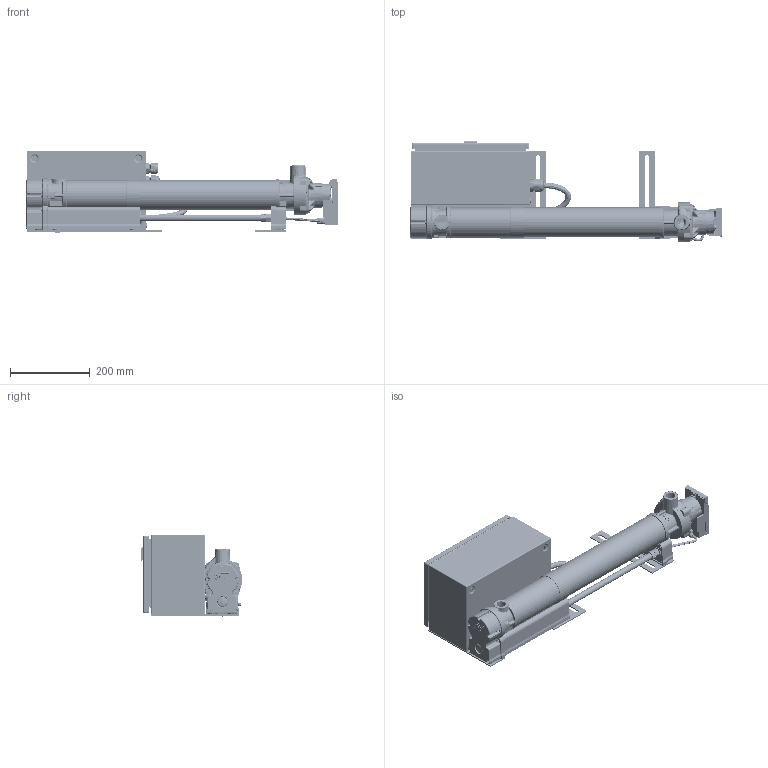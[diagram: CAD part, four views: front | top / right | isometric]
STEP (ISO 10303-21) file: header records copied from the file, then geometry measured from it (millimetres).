
FILE_DESCRIPTION (( 'STEP AP214' ), '1' );
FILE_NAME ('ASS_TOPSTART_9KW_WILOYP.STEP', '2014-01-10T07:52:39', ( '' ), ( '' ), 'SwSTEP 2.0', 'SolidWorks 2013', '' );
FILE_SCHEMA (( 'AUTOMOTIVE_DESIGN' ));
Length unit declared in the file: millimetre
Products named in the file (40): Pièce3^ASS_TOPSTART_9KW_WILOYP; 462615; Pièce_Iso_3; 6; 1597020-C; BOUCHON; 1597025-R; Pièce_Iso_1; Assemblage2; 5; Vis-Al-4; 1597020-B; PLAQUE SUPPORT_2; TUBE; 1597025-C; Bague_Sup; 4; GRCAPCAR; 1597020-A; PRESSE_16; 1597025-B; ip2632-refoidisseur-2012-09-10; 3; Vis-Al-6; PRESSE_20; Assemblage_vis; 1597025-A; CORPS DE CHAUFFE TOPSTART_6KW _LG; 2; 3d-stp_WILO-Intec_Motor-MS13-F14-Yonos-Para-RK-WS8; PLAQUE SUPPORT; BOUCHON_2; CAISSE; 462614; 1; PETCAP; Vis-Al-6-b; 7; 1597020-R; ASS_TOPSTART_9KW_WILOYP
Assembly tree (57 placements, depth 4):
  ASS_TOPSTART_9KW_WILOYP
    CORPS DE CHAUFFE TOPSTART_6KW _LG
    ip2632-refoidisseur-2012-09-10
    Bague_Sup
    Pièce_Iso_1
    Pièce_Iso_3
    PETCAP
    3d-stp_WILO-Intec_Motor-MS13-F14-Yonos-Para-RK-WS8
    Vis-Al-6  x4
    Assemblage2
      GRCAPCAR
      Vis-Al-4  x5
      BOUCHON_2
    PLAQUE SUPPORT_2
    Vis-Al-6-b  x2
    Assemblage_vis
      PLAQUE SUPPORT
      Vis-Al-6-b  x8
      PRESSE_20
      462614
        1597020-A
        1597020-B
        1597020-C
        1597020-R
      462615
        1597025-A
        1597025-B
        1597025-C
        1597025-R
      CAISSE
        1
        2
        3
        4
        5
        6
        7
    PRESSE_16  x2
    PRESSE_20
    TUBE
    BOUCHON
    Pièce3^ASS_TOPSTART_9KW_WILOYP
Bounding box: 831.64 x 256.81 x 207.86 mm (x, y, z)
Volume: 2396715.9 mm3; surface area: 1828012.2 mm2
Topology: 51 solids, 70 shells, 5989 faces, 15262 edges, 9498 vertices
Faces by surface type: plane 1974, cylinder 1757, bspline 1607, cone 478, torus 123, sphere 50
Entity records: 339370 total; most frequent: CARTESIAN_POINT 198728, ORIENTED_EDGE 28040, DIRECTION 19285, EDGE_CURVE 14052, VERTEX_POINT 8825, AXIS2_PLACEMENT_3D 7099, EDGE_LOOP 5959, FACE_OUTER_BOUND 5533
